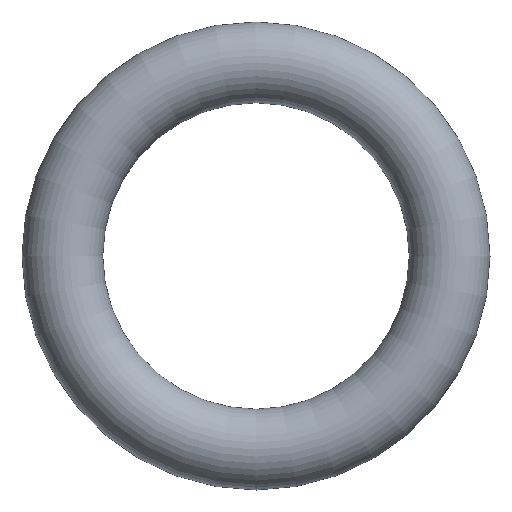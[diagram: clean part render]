
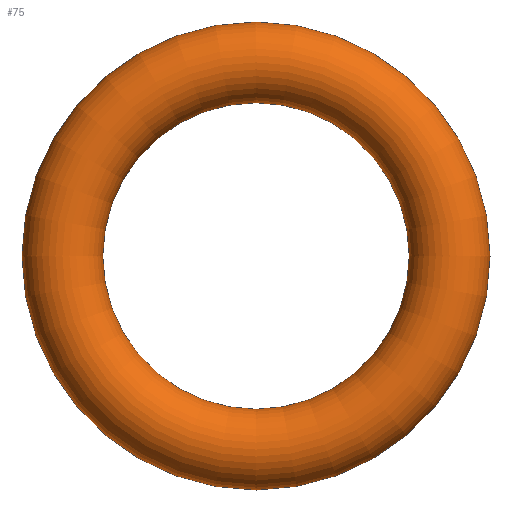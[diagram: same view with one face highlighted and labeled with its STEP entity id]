
A CAD part, front view. The second image highlights one B-rep face of the part: STEP entity #75.
In plain terms, the highlighted toroidal (fillet/blend) face has major radius 4.265 mm and minor radius 0.89 mm.
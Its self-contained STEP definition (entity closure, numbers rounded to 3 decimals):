
#75 = ADVANCED_FACE( '', ( #77 ), #78, .T. );
#77 = FACE_BOUND( '', #79, .T. );
#78 = TOROIDAL_SURFACE( '', #80, 4.265, 0.89 );
#79 = VERTEX_LOOP( '', #81 );
#80 = AXIS2_PLACEMENT_3D( '', #82, #83, #84 );
#81 = VERTEX_POINT( '', #85 );
#82 = CARTESIAN_POINT( '', ( 0., 0., 0. ) );
#83 = DIRECTION( '', ( 0., -1., 0. ) );
#84 = DIRECTION( '', ( 0., 0., -1. ) );
#85 = CARTESIAN_POINT( '', ( 0., 0., -5.155 ) );
